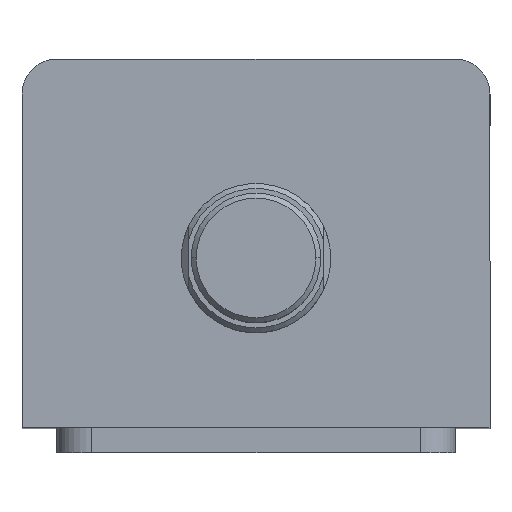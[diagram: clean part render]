
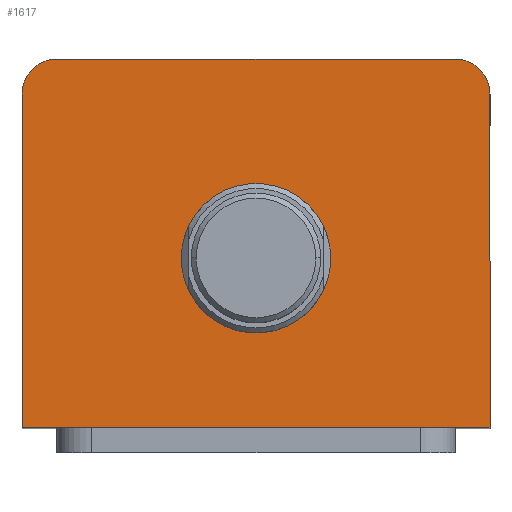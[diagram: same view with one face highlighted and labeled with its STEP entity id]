
A CAD part, top view. The second image highlights one B-rep face of the part: STEP entity #1617.
In plain terms, the highlighted planar face has unit normal (0, 0, 1).
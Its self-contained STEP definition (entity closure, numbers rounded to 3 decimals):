
#29 = ORIENTED_EDGE ( 'NONE', *, *, #2812, .T. ) ;
#117 = LINE ( 'NONE', #1217, #120 ) ;
#120 = VECTOR ( 'NONE', #1214, 1000. ) ;
#121 = CIRCLE ( 'NONE', #1734, 7. ) ;
#131 = CIRCLE ( 'NONE', #1727, 7. ) ;
#137 = FACE_BOUND ( 'NONE', #2883, .T. ) ;
#145 = FACE_OUTER_BOUND ( 'NONE', #2878, .T. ) ;
#288 = LINE ( 'NONE', #1013, #291 ) ;
#291 = VECTOR ( 'NONE', #999, 1000. ) ;
#320 = LINE ( 'NONE', #1076, #323 ) ;
#323 = VECTOR ( 'NONE', #1074, 1000. ) ;
#363 = EDGE_CURVE ( 'NONE', #2181, #3016, #2278, .T. ) ;
#378 = EDGE_CURVE ( 'NONE', #3110, #3076, #2289, .T. ) ;
#525 = ORIENTED_EDGE ( 'NONE', *, *, #1605, .T. ) ;
#725 = EDGE_CURVE ( 'NONE', #3076, #3110, #2365, .T. ) ;
#914 = CARTESIAN_POINT ( 'NONE',  ( 15., -3., 145. ) ) ;
#955 = CARTESIAN_POINT ( 'NONE',  ( -15., -3., 145. ) ) ;
#965 = CARTESIAN_POINT ( 'NONE',  ( 40., 37., 145. ) ) ;
#989 = CARTESIAN_POINT ( 'NONE',  ( -40., 37., 145. ) ) ;
#999 = DIRECTION ( 'NONE',  ( 1., 0., 0. ) ) ;
#1013 = CARTESIAN_POINT ( 'NONE',  ( -47., -37., 145. ) ) ;
#1020 = CARTESIAN_POINT ( 'NONE',  ( 47., -37., 145. ) ) ;
#1026 = CARTESIAN_POINT ( 'NONE',  ( -47., -37., 145. ) ) ;
#1074 = DIRECTION ( 'NONE',  ( -1., 0., 0. ) ) ;
#1076 = CARTESIAN_POINT ( 'NONE',  ( -47., 37., 145. ) ) ;
#1155 = DIRECTION ( 'NONE',  ( 1., 0., 0. ) ) ;
#1156 = DIRECTION ( 'NONE',  ( 0., 0., 1. ) ) ;
#1157 = CARTESIAN_POINT ( 'NONE',  ( -40., 30., 145. ) ) ;
#1192 = DIRECTION ( 'NONE',  ( 1., 0., 0. ) ) ;
#1193 = DIRECTION ( 'NONE',  ( 0., 0., 1. ) ) ;
#1194 = CARTESIAN_POINT ( 'NONE',  ( 40., 30., 145. ) ) ;
#1214 = DIRECTION ( 'NONE',  ( 0., 1., 0. ) ) ;
#1217 = CARTESIAN_POINT ( 'NONE',  ( 47., 37., 145. ) ) ;
#1425 = DIRECTION ( 'NONE',  ( 1., 0., 0. ) ) ;
#1431 = DIRECTION ( 'NONE',  ( 0., 0., 1. ) ) ;
#1437 = CARTESIAN_POINT ( 'NONE',  ( 0., -3., 145. ) ) ;
#1557 = ORIENTED_EDGE ( 'NONE', *, *, #725, .F. ) ;
#1558 = ORIENTED_EDGE ( 'NONE', *, *, #363, .T. ) ;
#1568 = ORIENTED_EDGE ( 'NONE', *, *, #378, .F. ) ;
#1593 = EDGE_CURVE ( 'NONE', #3021, #2189, #117, .T. ) ;
#1597 = EDGE_CURVE ( 'NONE', #2189, #3068, #121, .T. ) ;
#1605 = EDGE_CURVE ( 'NONE', #3048, #2181, #131, .T. ) ;
#1617 = ADVANCED_FACE ( 'NONE', ( #137, #145 ), #2708, .T. ) ;
#1721 = AXIS2_PLACEMENT_3D ( 'NONE', #2721, #2705, #2703 ) ;
#1727 = AXIS2_PLACEMENT_3D ( 'NONE', #1157, #1156, #1155 ) ;
#1734 = AXIS2_PLACEMENT_3D ( 'NONE', #1194, #1193, #1192 ) ;
#1890 = DIRECTION ( 'NONE',  ( 1., 0., 0. ) ) ;
#1891 = DIRECTION ( 'NONE',  ( 0., 0., 1. ) ) ;
#1892 = CARTESIAN_POINT ( 'NONE',  ( 0., -3., 145. ) ) ;
#1910 = DIRECTION ( 'NONE',  ( 0., -1., 0. ) ) ;
#1912 = CARTESIAN_POINT ( 'NONE',  ( -47., 37., 145. ) ) ;
#2181 = VERTEX_POINT ( 'NONE', #2512 ) ;
#2189 = VERTEX_POINT ( 'NONE', #2491 ) ;
#2278 = LINE ( 'NONE', #1912, #2283 ) ;
#2283 = VECTOR ( 'NONE', #1910, 1000. ) ;
#2289 = CIRCLE ( 'NONE', #2778, 15. ) ;
#2365 = CIRCLE ( 'NONE', #2756, 15. ) ;
#2491 = CARTESIAN_POINT ( 'NONE',  ( 47., 30., 145. ) ) ;
#2512 = CARTESIAN_POINT ( 'NONE',  ( -47., 30., 145. ) ) ;
#2703 = DIRECTION ( 'NONE',  ( 1., 0., 0. ) ) ;
#2705 = DIRECTION ( 'NONE',  ( 0., 0., 1. ) ) ;
#2708 = PLANE ( 'NONE',  #1721 ) ;
#2721 = CARTESIAN_POINT ( 'NONE',  ( 0., 0., 145. ) ) ;
#2756 = AXIS2_PLACEMENT_3D ( 'NONE', #1437, #1431, #1425 ) ;
#2778 = AXIS2_PLACEMENT_3D ( 'NONE', #1892, #1891, #1890 ) ;
#2794 = EDGE_CURVE ( 'NONE', #3016, #3021, #288, .T. ) ;
#2812 = EDGE_CURVE ( 'NONE', #3068, #3048, #320, .T. ) ;
#2828 = ORIENTED_EDGE ( 'NONE', *, *, #2794, .T. ) ;
#2829 = ORIENTED_EDGE ( 'NONE', *, *, #1593, .T. ) ;
#2830 = ORIENTED_EDGE ( 'NONE', *, *, #1597, .T. ) ;
#2878 = EDGE_LOOP ( 'NONE', ( #29, #525, #1558, #2828, #2829, #2830 ) ) ;
#2883 = EDGE_LOOP ( 'NONE', ( #1568, #1557 ) ) ;
#3016 = VERTEX_POINT ( 'NONE', #1026 ) ;
#3021 = VERTEX_POINT ( 'NONE', #1020 ) ;
#3048 = VERTEX_POINT ( 'NONE', #989 ) ;
#3068 = VERTEX_POINT ( 'NONE', #965 ) ;
#3076 = VERTEX_POINT ( 'NONE', #955 ) ;
#3110 = VERTEX_POINT ( 'NONE', #914 ) ;
